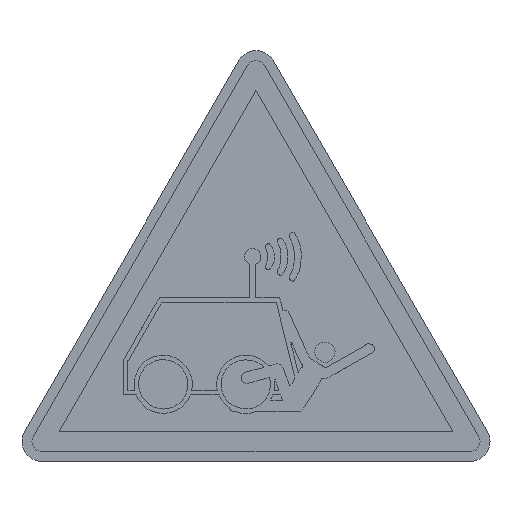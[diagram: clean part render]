
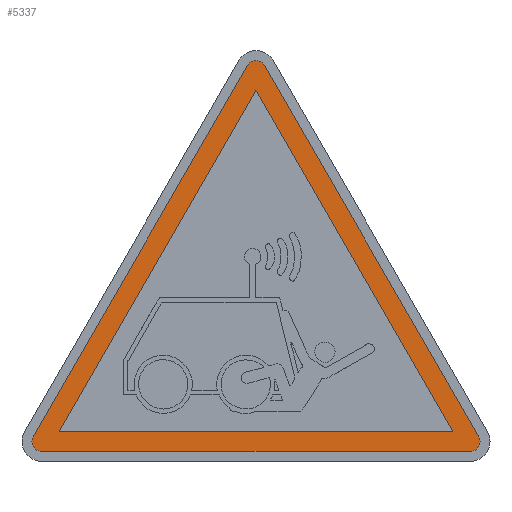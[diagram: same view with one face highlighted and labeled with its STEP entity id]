
A CAD part, top view. The second image highlights one B-rep face of the part: STEP entity #5337.
In plain terms, the highlighted planar face has unit normal (0, 0, 1).
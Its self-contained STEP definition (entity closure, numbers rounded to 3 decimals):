
#9 = VERTEX_POINT ( 'NONE', #7482 ) ;
#140 = DIRECTION ( 'NONE',  ( -0.5, 0.866, 0. ) ) ;
#210 = VERTEX_POINT ( 'NONE', #2787 ) ;
#217 = VERTEX_POINT ( 'NONE', #7324 ) ;
#277 = CARTESIAN_POINT ( 'NONE',  ( -0.866, 39.801, 0.22 ) ) ;
#437 = EDGE_LOOP ( 'NONE', ( #2741, #7785, #9099, #5681, #5836, #6365 ) ) ;
#793 = VECTOR ( 'NONE', #140, 1000. ) ;
#839 = ORIENTED_EDGE ( 'NONE', *, *, #4163, .F. ) ;
#981 = VERTEX_POINT ( 'NONE', #3729 ) ;
#999 = PLANE ( 'NONE',  #4262 ) ;
#1096 = CARTESIAN_POINT ( 'NONE',  ( 0., 39.301, 0.22 ) ) ;
#1129 = LINE ( 'NONE', #3271, #2824 ) ;
#1149 = CARTESIAN_POINT ( 'NONE',  ( -21.536, 1., 0.22 ) ) ;
#1319 = DIRECTION ( 'NONE',  ( 0., 0., 1. ) ) ;
#1386 = VERTEX_POINT ( 'NONE', #1906 ) ;
#1432 = CARTESIAN_POINT ( 'NONE',  ( -21.536, 2., 0.22 ) ) ;
#1782 = FACE_OUTER_BOUND ( 'NONE', #437, .T. ) ;
#1881 = CARTESIAN_POINT ( 'NONE',  ( -19.804, 3., 0.22 ) ) ;
#1906 = CARTESIAN_POINT ( 'NONE',  ( 19.804, 3., 0.22 ) ) ;
#2081 = ORIENTED_EDGE ( 'NONE', *, *, #5863, .F. ) ;
#2107 = DIRECTION ( 'NONE',  ( 1., 0., 0. ) ) ;
#2148 = DIRECTION ( 'NONE',  ( 1., 0., 0. ) ) ;
#2222 = AXIS2_PLACEMENT_3D ( 'NONE', #8248, #1319, #5044 ) ;
#2727 = VERTEX_POINT ( 'NONE', #1881 ) ;
#2741 = ORIENTED_EDGE ( 'NONE', *, *, #8292, .T. ) ;
#2758 = VERTEX_POINT ( 'NONE', #1149 ) ;
#2787 = CARTESIAN_POINT ( 'NONE',  ( 21.536, 1., 0.22 ) ) ;
#2824 = VECTOR ( 'NONE', #8700, 1000. ) ;
#2931 = CARTESIAN_POINT ( 'NONE',  ( -21.536, 1., 0.22 ) ) ;
#3118 = ORIENTED_EDGE ( 'NONE', *, *, #3648, .F. ) ;
#3194 = CARTESIAN_POINT ( 'NONE',  ( 19.804, 3., 0.22 ) ) ;
#3271 = CARTESIAN_POINT ( 'NONE',  ( 0., 37.301, 0.22 ) ) ;
#3363 = DIRECTION ( 'NONE',  ( 0., 0., 1. ) ) ;
#3397 = CIRCLE ( 'NONE', #8758, 1. ) ;
#3509 = CARTESIAN_POINT ( 'NONE',  ( 0., 39.301, 0.22 ) ) ;
#3648 = EDGE_CURVE ( 'NONE', #981, #2727, #1129, .T. ) ;
#3702 = CARTESIAN_POINT ( 'NONE',  ( -0.866, 39.801, 0.22 ) ) ;
#3729 = CARTESIAN_POINT ( 'NONE',  ( 0., 37.301, 0.22 ) ) ;
#4163 = EDGE_CURVE ( 'NONE', #1386, #981, #5456, .T. ) ;
#4262 = AXIS2_PLACEMENT_3D ( 'NONE', #1096, #8668, #7698 ) ;
#4287 = DIRECTION ( 'NONE',  ( 1., 0., 0. ) ) ;
#4315 = VERTEX_POINT ( 'NONE', #5660 ) ;
#4452 = LINE ( 'NONE', #2931, #9219 ) ;
#4467 = LINE ( 'NONE', #7492, #4825 ) ;
#4569 = EDGE_CURVE ( 'NONE', #210, #9, #7740, .T. ) ;
#4825 = VECTOR ( 'NONE', #5988, 1000. ) ;
#5044 = DIRECTION ( 'NONE',  ( 1., 0., 0. ) ) ;
#5224 = DIRECTION ( 'NONE',  ( -0.5, -0.866, 0. ) ) ;
#5337 = ADVANCED_FACE ( 'NONE', ( #1782, #7799 ), #999, .T. ) ;
#5456 = LINE ( 'NONE', #3194, #793 ) ;
#5660 = CARTESIAN_POINT ( 'NONE',  ( -22.402, 2.5, 0.22 ) ) ;
#5681 = ORIENTED_EDGE ( 'NONE', *, *, #7574, .T. ) ;
#5836 = ORIENTED_EDGE ( 'NONE', *, *, #4569, .T. ) ;
#5863 = EDGE_CURVE ( 'NONE', #2727, #1386, #8850, .T. ) ;
#5899 = CIRCLE ( 'NONE', #9380, 1. ) ;
#5907 = LINE ( 'NONE', #3702, #7390 ) ;
#5988 = DIRECTION ( 'NONE',  ( -0.5, 0.866, 0. ) ) ;
#6365 = ORIENTED_EDGE ( 'NONE', *, *, #8926, .T. ) ;
#6385 = DIRECTION ( 'NONE',  ( 1., 0., 0. ) ) ;
#6867 = VERTEX_POINT ( 'NONE', #277 ) ;
#7216 = EDGE_CURVE ( 'NONE', #4315, #2758, #3397, .T. ) ;
#7226 = EDGE_LOOP ( 'NONE', ( #2081, #3118, #839 ) ) ;
#7324 = CARTESIAN_POINT ( 'NONE',  ( 0.866, 39.801, 0.22 ) ) ;
#7390 = VECTOR ( 'NONE', #5224, 1000. ) ;
#7455 = DIRECTION ( 'NONE',  ( 0., 0., 1. ) ) ;
#7482 = CARTESIAN_POINT ( 'NONE',  ( 22.402, 2.5, 0.22 ) ) ;
#7492 = CARTESIAN_POINT ( 'NONE',  ( 22.402, 2.5, 0.22 ) ) ;
#7574 = EDGE_CURVE ( 'NONE', #2758, #210, #4452, .T. ) ;
#7698 = DIRECTION ( 'NONE',  ( 1., 0., 0. ) ) ;
#7740 = CIRCLE ( 'NONE', #2222, 1. ) ;
#7785 = ORIENTED_EDGE ( 'NONE', *, *, #9369, .T. ) ;
#7799 = FACE_BOUND ( 'NONE', #7226, .T. ) ;
#8248 = CARTESIAN_POINT ( 'NONE',  ( 21.536, 2., 0.22 ) ) ;
#8292 = EDGE_CURVE ( 'NONE', #217, #6867, #5899, .T. ) ;
#8668 = DIRECTION ( 'NONE',  ( 0., 0., 1. ) ) ;
#8700 = DIRECTION ( 'NONE',  ( -0.5, -0.866, 0. ) ) ;
#8758 = AXIS2_PLACEMENT_3D ( 'NONE', #1432, #7455, #4287 ) ;
#8850 = LINE ( 'NONE', #8888, #9644 ) ;
#8888 = CARTESIAN_POINT ( 'NONE',  ( -19.804, 3., 0.22 ) ) ;
#8926 = EDGE_CURVE ( 'NONE', #9, #217, #4467, .T. ) ;
#9099 = ORIENTED_EDGE ( 'NONE', *, *, #7216, .T. ) ;
#9219 = VECTOR ( 'NONE', #2148, 1000. ) ;
#9369 = EDGE_CURVE ( 'NONE', #6867, #4315, #5907, .T. ) ;
#9380 = AXIS2_PLACEMENT_3D ( 'NONE', #3509, #3363, #6385 ) ;
#9644 = VECTOR ( 'NONE', #2107, 1000. ) ;
